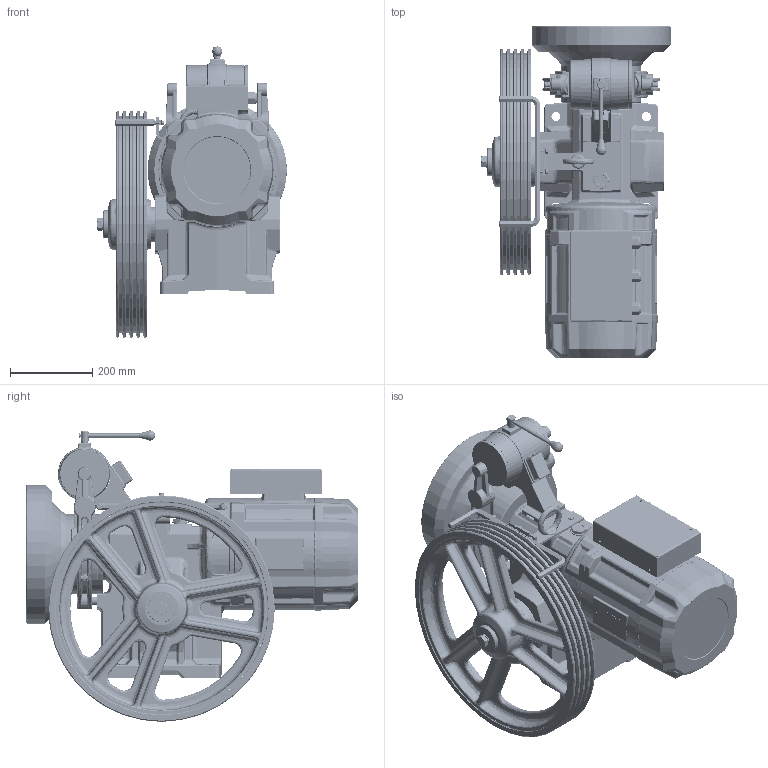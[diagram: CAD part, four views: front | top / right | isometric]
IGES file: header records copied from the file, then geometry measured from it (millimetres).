
Start section: START RECORD GO HERE.
Global section: file name: GARBOX BL240 .igs; native system: DASSAULT SYSTEMES CATIA Version 5-6 Release 2017 - www.3ds.com; preprocessor: V5-6R2017_5.27.2.0.03-10-2017.22.00; author: j_siahi; organization: BEHRANLIFT; date: 20230517.172531; units: millimetre
Bounding box: 460.49 x 806.2 x 707.63 mm (x, y, z)
Surface area: 2573166.3 mm2 (no closed solid volume)
Topology: 0 solids, 0 shells, 6203 faces, 31049 edges, 30726 vertices
Faces by surface type: revolution 2366, plane 1932, bspline 1865, extrusion 40
